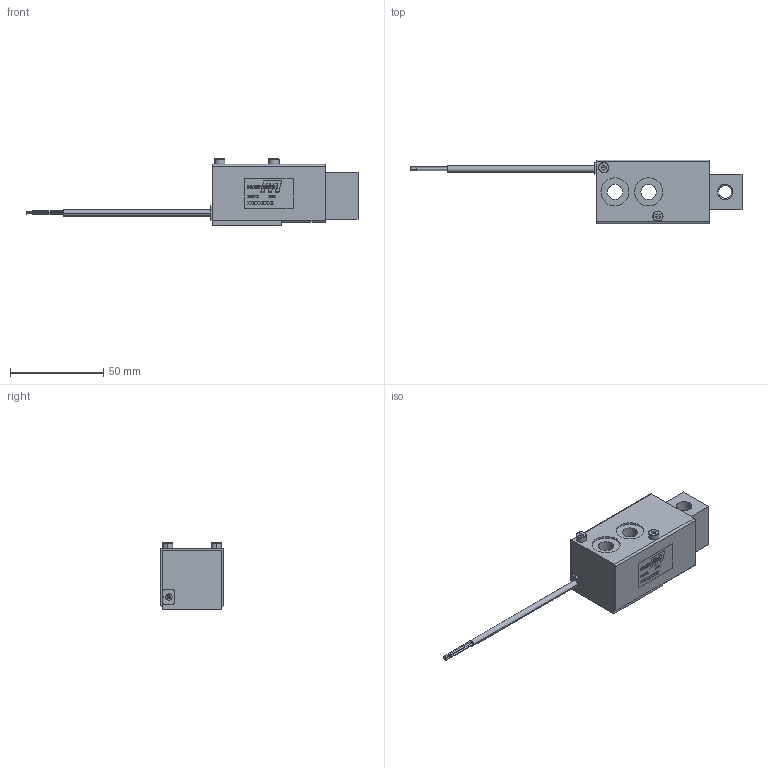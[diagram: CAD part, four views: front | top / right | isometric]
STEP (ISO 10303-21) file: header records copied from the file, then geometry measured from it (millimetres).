
FILE_DESCRIPTION (( 'STEP AP203' ), '1' );
FILE_NAME ('KT805.STEP', '2024-03-07T10:09:22', ( '' ), ( '' ), 'SwSTEP 2.0', 'SolidWorks 2022', '' );
FILE_SCHEMA (( 'CONFIG_CONTROL_DESIGN' ));
Length unit declared in the file: millimetre
Products named in the file (9): Gehaeuse_KM801SLDPRT; 41.001.07_Label-Universal 16x26; 62.020.XX.EIN_ohne M4-Gewinde; Kabel 3 pol_dummy_21.015.XX.GRU_mit Schirm; 20.028.XX.GRU_mit Bauteilhöhe; socket head cap screw_iso_ISO 4762 M3 x 6 - 6C; KT805; pan head cross recess screw_iso_ISO 7045 - M2 x 3 - Z - 3N; 32.000.10.EIN
Assembly tree (10 placements, depth 2):
  KT805
    62.020.XX.EIN_ohne M4-Gewinde
    32.000.10.EIN
    Kabel 3 pol_dummy_21.015.XX.GRU_mit Schirm
    20.028.XX.GRU_mit Bauteilhöhe
    pan head cross recess screw_iso_ISO 7045 - M2 x 3 - Z - 3N  x2
    Gehaeuse_KM801SLDPRT
    41.001.07_Label-Universal 16x26
    socket head cap screw_iso_ISO 4762 M3 x 6 - 6C  x2
Bounding box: 177.7 x 34.1 x 35.5 mm (x, y, z)
Volume: 46509.6 mm3; surface area: 34874.5 mm2
Topology: 83 solids, 83 shells, 1485 faces, 3708 edges, 2427 vertices
Faces by surface type: plane 1028, cylinder 279, bspline 101, cone 57, torus 16, sphere 4
Entity records: 46348 total; most frequent: CARTESIAN_POINT 11495, ORIENTED_EDGE 7068, DIRECTION 6514, EDGE_CURVE 3534, LINE 2694, VECTOR 2694, VERTEX_POINT 2334, AXIS2_PLACEMENT_3D 1910
